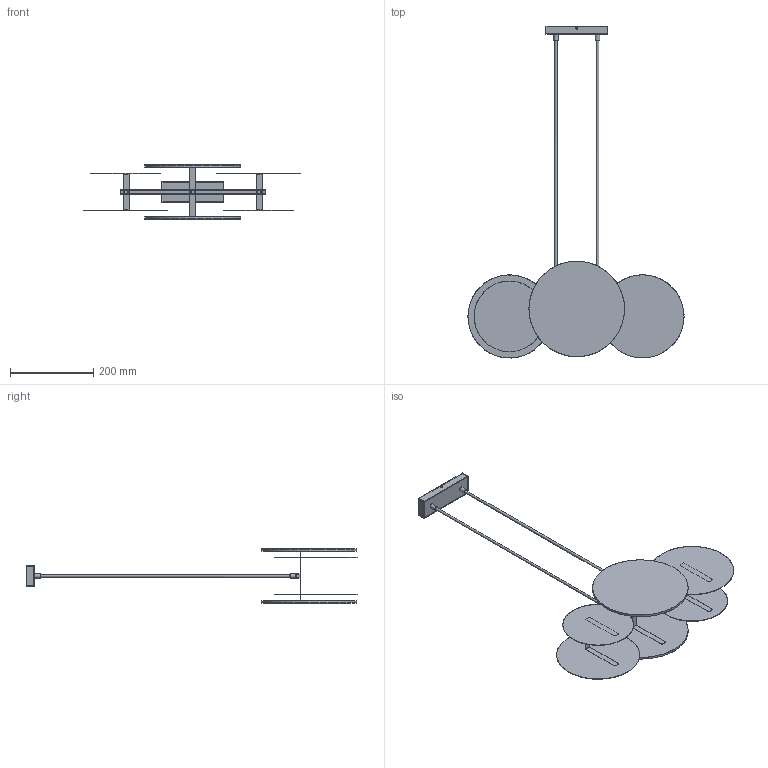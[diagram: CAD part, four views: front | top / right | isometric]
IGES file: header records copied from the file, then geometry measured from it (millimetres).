
Global section: file name: F:\\_Liczy si\X2\0119\X0\ s\X2\0142\X0\owo\\_Modelowanie SIGMA\\TOLA\\model\\gotowe\\TOLA.igs; native system: HarmonyWare Translators; preprocessor: HarmonyWare IGES v2.1.4; date: 20241206.001654; units: centimetre
Bounding box: 520 x 798.56 x 130 mm (x, y, z)
Volume: 624119.8 mm3; surface area: 503281.6 mm2
Topology: 15 solids, 15 shells, 413 faces, 1029 edges, 646 vertices
Faces by surface type: bspline 413
